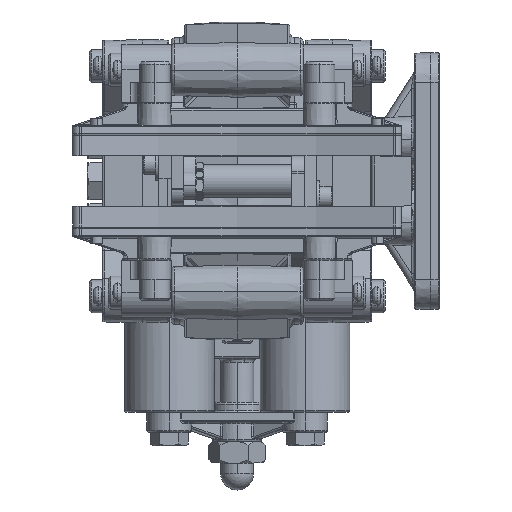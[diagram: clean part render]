
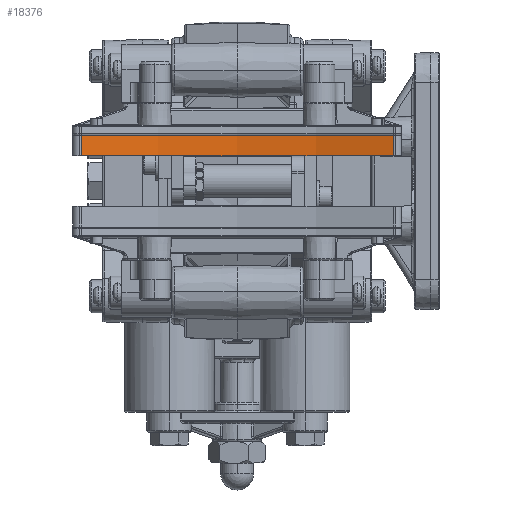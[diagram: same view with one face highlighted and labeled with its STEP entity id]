
A CAD part, left-side view. The second image highlights one B-rep face of the part: STEP entity #18376.
In plain terms, the highlighted cylindrical face has radius 203.2 mm (diameter 406.4 mm), a partial arc.
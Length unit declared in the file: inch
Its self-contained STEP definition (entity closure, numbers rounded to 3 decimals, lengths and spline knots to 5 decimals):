
#809 = CARTESIAN_POINT ( 'NONE',  ( -10., 0., 0.385 ) ) ;
#1994 = FACE_OUTER_BOUND ( 'NONE', #17129, .T. ) ;
#7078 = CARTESIAN_POINT ( 'NONE',  ( -10., 0., 0.698 ) ) ;
#8794 = CARTESIAN_POINT ( 'NONE',  ( -2.35923, 2.37037, 0.385 ) ) ;
#14390 = CARTESIAN_POINT ( 'NONE',  ( -2.35923, -2.37037, 0.698 ) ) ;
#16545 = EDGE_CURVE ( 'NONE', #167064, #157485, #60565, .T. ) ;
#17129 = EDGE_LOOP ( 'NONE', ( #82691, #52342, #52963, #125290 ) ) ;
#18376 = ADVANCED_FACE ( 'NONE', ( #1994 ), #120812, .F. ) ;
#34490 = EDGE_CURVE ( 'NONE', #149858, #157485, #64697, .T. ) ;
#41538 = CARTESIAN_POINT ( 'NONE',  ( -2.35923, -2.37037, 0.385 ) ) ;
#47760 = CARTESIAN_POINT ( 'NONE',  ( -2.35923, 2.37037, 0.698 ) ) ;
#52342 = ORIENTED_EDGE ( 'NONE', *, *, #52348, .F. ) ;
#52348 = EDGE_CURVE ( 'NONE', #155628, #149858, #131845, .T. ) ;
#52963 = ORIENTED_EDGE ( 'NONE', *, *, #161417, .T. ) ;
#53536 = AXIS2_PLACEMENT_3D ( 'NONE', #111327, #151525, #101033 ) ;
#59285 = DIRECTION ( 'NONE',  ( 0., 0., -1. ) ) ;
#60565 = LINE ( 'NONE', #47760, #139179 ) ;
#63565 = CARTESIAN_POINT ( 'NONE',  ( -2.35923, -2.37037, 0.698 ) ) ;
#64697 = CIRCLE ( 'NONE', #111110, 8. ) ;
#79757 = DIRECTION ( 'NONE',  ( 0., 0., -1. ) ) ;
#82691 = ORIENTED_EDGE ( 'NONE', *, *, #34490, .F. ) ;
#85287 = VECTOR ( 'NONE', #79757, 39.37008 ) ;
#99796 = DIRECTION ( 'NONE',  ( 0., 0., -1. ) ) ;
#101033 = DIRECTION ( 'NONE',  ( 1., 0., 0. ) ) ;
#107663 = DIRECTION ( 'NONE',  ( 0., 0., 1. ) ) ;
#111110 = AXIS2_PLACEMENT_3D ( 'NONE', #809, #107663, #118793 ) ;
#111327 = CARTESIAN_POINT ( 'NONE',  ( -10., 0., 0.698 ) ) ;
#116332 = CIRCLE ( 'NONE', #53536, 8. ) ;
#118793 = DIRECTION ( 'NONE',  ( 1., 0., 0. ) ) ;
#120812 = CYLINDRICAL_SURFACE ( 'NONE', #124688, 8. ) ;
#124688 = AXIS2_PLACEMENT_3D ( 'NONE', #7078, #59285, #138709 ) ;
#125290 = ORIENTED_EDGE ( 'NONE', *, *, #16545, .T. ) ;
#131845 = LINE ( 'NONE', #63565, #85287 ) ;
#138709 = DIRECTION ( 'NONE',  ( -1., 0., 0. ) ) ;
#139179 = VECTOR ( 'NONE', #99796, 39.37008 ) ;
#149780 = CARTESIAN_POINT ( 'NONE',  ( -2.35923, 2.37037, 0.698 ) ) ;
#149858 = VERTEX_POINT ( 'NONE', #41538 ) ;
#151525 = DIRECTION ( 'NONE',  ( 0., 0., 1. ) ) ;
#155628 = VERTEX_POINT ( 'NONE', #14390 ) ;
#157485 = VERTEX_POINT ( 'NONE', #8794 ) ;
#161417 = EDGE_CURVE ( 'NONE', #155628, #167064, #116332, .T. ) ;
#167064 = VERTEX_POINT ( 'NONE', #149780 ) ;
